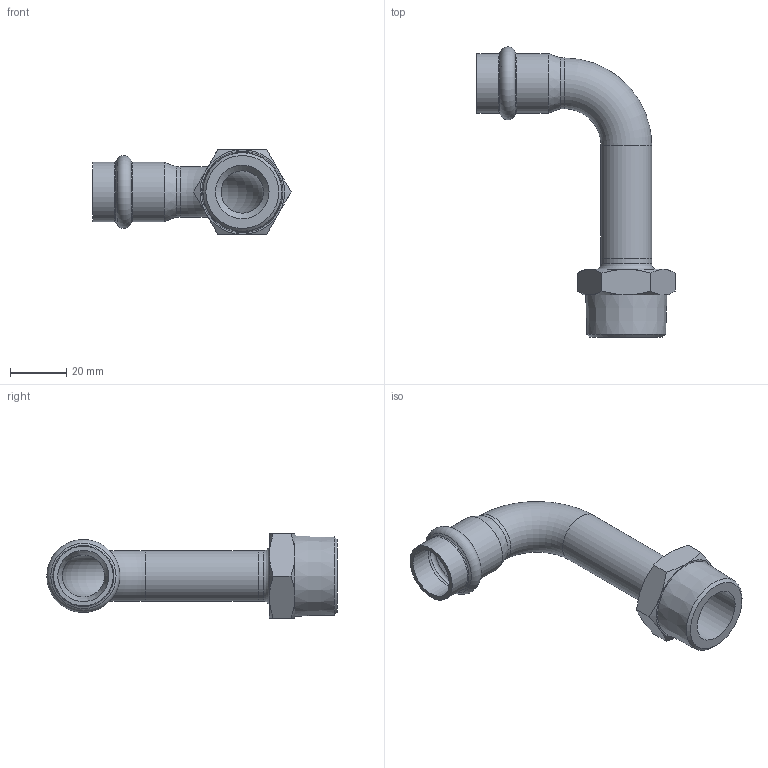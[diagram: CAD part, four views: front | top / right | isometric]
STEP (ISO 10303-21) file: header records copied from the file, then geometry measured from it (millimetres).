
FILE_DESCRIPTION((''),'2;1');
FILE_NAME('G:\Technics\CAD\Bauteile\018\69002AG1834(1).stp','2008-01-31T09:25:35',('herberg'),(''),'Autodesk Inventor 2008','Autodesk Inventor 2008','');
FILE_SCHEMA(('AUTOMOTIVE_DESIGN { 1 0 10303 214 1 1 1 1 }'));
Length unit declared in the file: millimetre
Products named in the file (3): 69002AG1834(1); 69001A18(1); AG1834(2)
Assembly tree (2 placements, depth 2):
  69002AG1834(1)
    69001A18(1)
    AG1834(2)
Bounding box: 70.32 x 102.94 x 30 mm (x, y, z)
Volume: 19282.9 mm3; surface area: 17078.8 mm2
Topology: 2 solids, 2 shells, 51 faces, 109 edges, 64 vertices
Faces by surface type: cone 18, plane 12, cylinder 9, bspline 8, torus 4
Full cylindrical faces by diameter (mm): 15 x2, 18 x3, 18.15 x2, 21.15 x2
Entity records: 1457 total; most frequent: CARTESIAN_POINT 505, DIRECTION 190, ORIENTED_EDGE 148, AXIS2_PLACEMENT_3D 92, EDGE_LOOP 84, EDGE_CURVE 74, VERTEX_POINT 56, FACE_OUTER_BOUND 51
